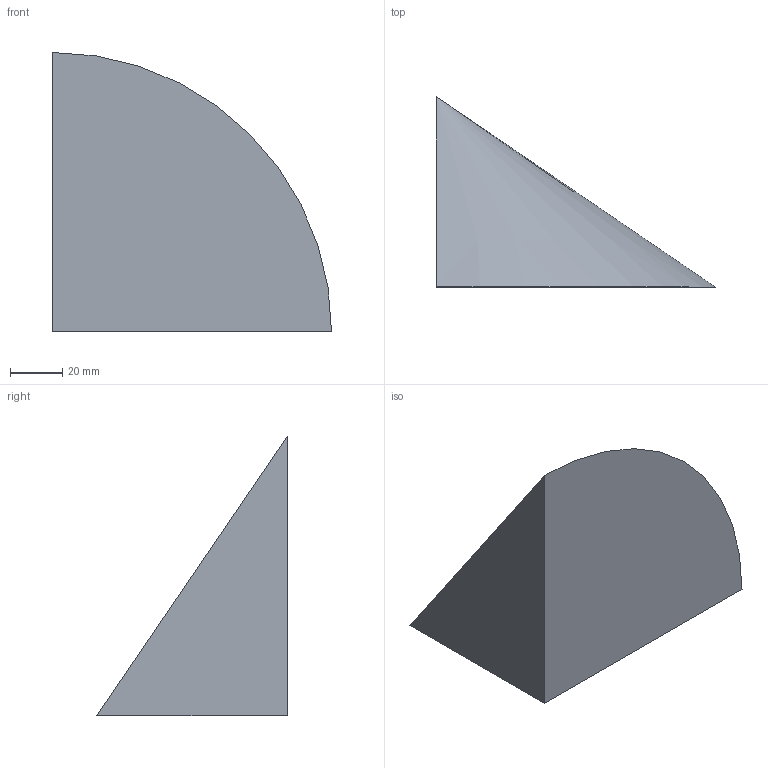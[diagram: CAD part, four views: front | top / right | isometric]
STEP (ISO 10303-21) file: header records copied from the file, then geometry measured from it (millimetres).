
FILE_DESCRIPTION(('CATIA V5 STEP Exchange'),'2;1');
FILE_NAME('C:\_Andres\UNIVERSIDAD\IQS\ASIGNATURAS\DAO\EXF\EXF-16172c\2inicio\Carreras_Buscato_Ej07_v7.stp','2017-03-05T21:18:11+00:00',('none'),('none'),'CATIA Version 5-6 Release 2014 SP1 HF18','CATIA V5 STEP AP203','none');
FILE_SCHEMA(('CONFIG_CONTROL_DESIGN'));
Length unit declared in the file: millimetre
Products named in the file (1): Carreras_Buscato_Ej07_v7
Bounding box: 107 x 73 x 107 mm (x, y, z)
Volume: 218805.9 mm3; surface area: 27688.4 mm2
Topology: 1 solids, 1 shells, 4 faces, 7 edges, 4 vertices
Faces by surface type: plane 3, cone 1
Entity records: 131 total; most frequent: CARTESIAN_POINT 15, DIRECTION 14, ORIENTED_EDGE 12, AXIS2_PLACEMENT_3D 6, EDGE_CURVE 6, VECTOR 5, LINE 5, ADVANCED_FACE 4
